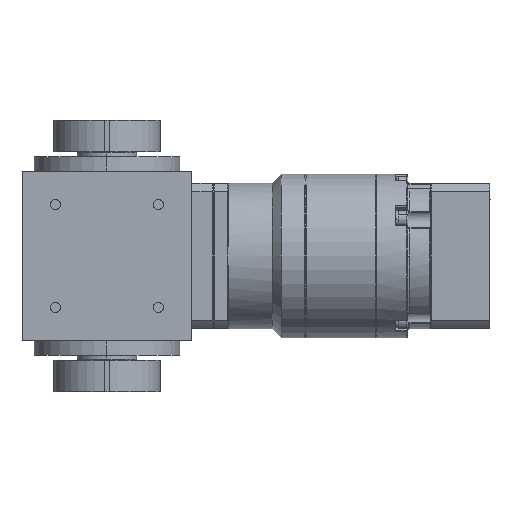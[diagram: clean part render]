
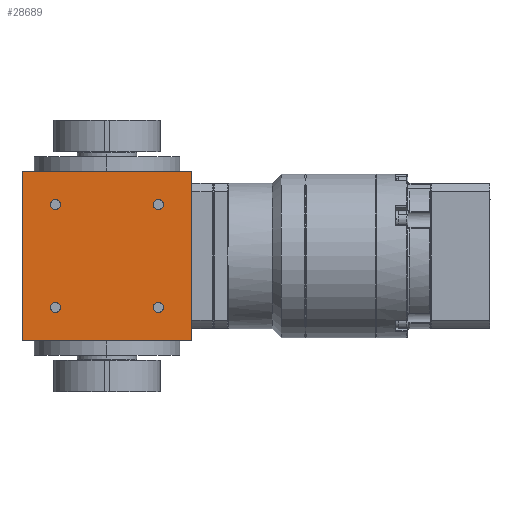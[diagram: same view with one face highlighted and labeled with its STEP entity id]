
A CAD part, left-side view. The second image highlights one B-rep face of the part: STEP entity #28689.
In plain terms, the highlighted planar face has unit normal (-1, 0, 0).
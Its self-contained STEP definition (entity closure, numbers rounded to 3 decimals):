
#25 = VERTEX_POINT ( 'NONE', #18665 ) ;
#440 = ORIENTED_EDGE ( 'NONE', *, *, #25743, .T. ) ;
#504 = DIRECTION ( 'NONE',  ( 0., -1., 0. ) ) ;
#813 = EDGE_CURVE ( 'NONE', #24007, #13736, #9141, .T. ) ;
#1140 = ORIENTED_EDGE ( 'NONE', *, *, #7274, .T. ) ;
#1322 = AXIS2_PLACEMENT_3D ( 'NONE', #18264, #13850, #11220 ) ;
#1357 = EDGE_CURVE ( 'NONE', #24372, #25, #8247, .T. ) ;
#1424 = DIRECTION ( 'NONE',  ( 0., -1., 0. ) ) ;
#1763 = ORIENTED_EDGE ( 'NONE', *, *, #7796, .T. ) ;
#1769 = ORIENTED_EDGE ( 'NONE', *, *, #26004, .F. ) ;
#2302 = DIRECTION ( 'NONE',  ( 1., 0., 0. ) ) ;
#2336 = DIRECTION ( 'NONE',  ( 1., 0., 0. ) ) ;
#3106 = FACE_BOUND ( 'NONE', #15091, .T. ) ;
#3780 = ORIENTED_EDGE ( 'NONE', *, *, #1357, .F. ) ;
#4146 = CARTESIAN_POINT ( 'NONE',  ( -35., -35., -35. ) ) ;
#4387 = CARTESIAN_POINT ( 'NONE',  ( -35., 35., -35. ) ) ;
#4715 = DIRECTION ( 'NONE',  ( 0., 0., 1. ) ) ;
#4763 = FACE_OUTER_BOUND ( 'NONE', #14616, .T. ) ;
#5106 = EDGE_LOOP ( 'NONE', ( #21256, #21361 ) ) ;
#5438 = LINE ( 'NONE', #22935, #24991 ) ;
#5484 = AXIS2_PLACEMENT_3D ( 'NONE', #11740, #16340, #1424 ) ;
#6854 = VERTEX_POINT ( 'NONE', #26621 ) ;
#6880 = DIRECTION ( 'NONE',  ( 0., -1., 0. ) ) ;
#7204 = CARTESIAN_POINT ( 'NONE',  ( -35., 19.113, 21.213 ) ) ;
#7226 = DIRECTION ( 'NONE',  ( 0., -1., 0. ) ) ;
#7274 = EDGE_CURVE ( 'NONE', #24372, #31405, #16451, .T. ) ;
#7706 = FACE_BOUND ( 'NONE', #29913, .T. ) ;
#7727 = AXIS2_PLACEMENT_3D ( 'NONE', #25912, #2336, #21976 ) ;
#7796 = EDGE_CURVE ( 'NONE', #13736, #24007, #13659, .T. ) ;
#7823 = CARTESIAN_POINT ( 'NONE',  ( -35., -23.313, -21.213 ) ) ;
#7921 = CARTESIAN_POINT ( 'NONE',  ( -35., -19.113, -21.213 ) ) ;
#8024 = DIRECTION ( 'NONE',  ( 0., 0., 1. ) ) ;
#8030 = AXIS2_PLACEMENT_3D ( 'NONE', #14898, #2302, #6880 ) ;
#8247 = LINE ( 'NONE', #18232, #31229 ) ;
#8387 = VECTOR ( 'NONE', #13832, 1000. ) ;
#9029 = AXIS2_PLACEMENT_3D ( 'NONE', #22980, #10541, #23144 ) ;
#9141 = CIRCLE ( 'NONE', #1322, 2.1 ) ;
#9940 = ORIENTED_EDGE ( 'NONE', *, *, #813, .T. ) ;
#10063 = CIRCLE ( 'NONE', #9029, 2.1 ) ;
#10157 = FACE_BOUND ( 'NONE', #23593, .T. ) ;
#10541 = DIRECTION ( 'NONE',  ( 1., 0., 0. ) ) ;
#10633 = PLANE ( 'NONE',  #23485 ) ;
#11220 = DIRECTION ( 'NONE',  ( 0., -1., 0. ) ) ;
#11520 = EDGE_CURVE ( 'NONE', #15165, #6854, #10063, .T. ) ;
#11740 = CARTESIAN_POINT ( 'NONE',  ( -35., 21.213, -21.213 ) ) ;
#12078 = EDGE_CURVE ( 'NONE', #6854, #15165, #23716, .T. ) ;
#12132 = DIRECTION ( 'NONE',  ( 1., 0., 0. ) ) ;
#12550 = DIRECTION ( 'NONE',  ( 0., -1., 0. ) ) ;
#12939 = DIRECTION ( 'NONE',  ( -1., 0., 0. ) ) ;
#13096 = CARTESIAN_POINT ( 'NONE',  ( -35., 35., -35. ) ) ;
#13659 = CIRCLE ( 'NONE', #31906, 2.1 ) ;
#13736 = VERTEX_POINT ( 'NONE', #7204 ) ;
#13832 = DIRECTION ( 'NONE',  ( 0., -1., 0. ) ) ;
#13850 = DIRECTION ( 'NONE',  ( 1., 0., 0. ) ) ;
#14571 = CARTESIAN_POINT ( 'NONE',  ( -35., 23.313, 21.213 ) ) ;
#14616 = EDGE_LOOP ( 'NONE', ( #3780, #1140, #24427, #1769 ) ) ;
#14898 = CARTESIAN_POINT ( 'NONE',  ( -35., -21.213, 21.213 ) ) ;
#15091 = EDGE_LOOP ( 'NONE', ( #440, #16186 ) ) ;
#15165 = VERTEX_POINT ( 'NONE', #19125 ) ;
#15321 = EDGE_CURVE ( 'NONE', #31405, #25916, #27302, .T. ) ;
#15453 = VERTEX_POINT ( 'NONE', #7823 ) ;
#15747 = CIRCLE ( 'NONE', #26730, 2.1 ) ;
#16058 = CIRCLE ( 'NONE', #7727, 2.1 ) ;
#16186 = ORIENTED_EDGE ( 'NONE', *, *, #20499, .T. ) ;
#16191 = CARTESIAN_POINT ( 'NONE',  ( -35., -21.213, -21.213 ) ) ;
#16284 = CARTESIAN_POINT ( 'NONE',  ( -35., 0., -35. ) ) ;
#16340 = DIRECTION ( 'NONE',  ( 1., 0., 0. ) ) ;
#16451 = LINE ( 'NONE', #16284, #8387 ) ;
#16828 = CARTESIAN_POINT ( 'NONE',  ( -35., 23.313, -21.213 ) ) ;
#18232 = CARTESIAN_POINT ( 'NONE',  ( -35., 35., -35. ) ) ;
#18264 = CARTESIAN_POINT ( 'NONE',  ( -35., 21.213, 21.213 ) ) ;
#18665 = CARTESIAN_POINT ( 'NONE',  ( -35., 35., 35. ) ) ;
#19125 = CARTESIAN_POINT ( 'NONE',  ( -35., -19.113, 21.213 ) ) ;
#19176 = CARTESIAN_POINT ( 'NONE',  ( -35., 21.213, 21.213 ) ) ;
#19390 = EDGE_CURVE ( 'NONE', #15453, #22085, #22198, .T. ) ;
#20478 = CARTESIAN_POINT ( 'NONE',  ( -35., -35., 35. ) ) ;
#20499 = EDGE_CURVE ( 'NONE', #26554, #22330, #21145, .T. ) ;
#21145 = CIRCLE ( 'NONE', #5484, 2.1 ) ;
#21256 = ORIENTED_EDGE ( 'NONE', *, *, #12078, .T. ) ;
#21361 = ORIENTED_EDGE ( 'NONE', *, *, #11520, .T. ) ;
#21976 = DIRECTION ( 'NONE',  ( 0., -1., 0. ) ) ;
#22085 = VERTEX_POINT ( 'NONE', #7921 ) ;
#22198 = CIRCLE ( 'NONE', #26384, 2.1 ) ;
#22330 = VERTEX_POINT ( 'NONE', #31747 ) ;
#22590 = FACE_BOUND ( 'NONE', #5106, .T. ) ;
#22935 = CARTESIAN_POINT ( 'NONE',  ( -35., 0., 35. ) ) ;
#22980 = CARTESIAN_POINT ( 'NONE',  ( -35., -21.213, 21.213 ) ) ;
#23144 = DIRECTION ( 'NONE',  ( 0., -1., 0. ) ) ;
#23485 = AXIS2_PLACEMENT_3D ( 'NONE', #13096, #12939, #8024 ) ;
#23593 = EDGE_LOOP ( 'NONE', ( #30875, #29411 ) ) ;
#23716 = CIRCLE ( 'NONE', #8030, 2.1 ) ;
#24007 = VERTEX_POINT ( 'NONE', #14571 ) ;
#24372 = VERTEX_POINT ( 'NONE', #4387 ) ;
#24427 = ORIENTED_EDGE ( 'NONE', *, *, #15321, .T. ) ;
#24991 = VECTOR ( 'NONE', #504, 1000. ) ;
#25586 = VECTOR ( 'NONE', #4715, 1000. ) ;
#25743 = EDGE_CURVE ( 'NONE', #22330, #26554, #16058, .T. ) ;
#25912 = CARTESIAN_POINT ( 'NONE',  ( -35., 21.213, -21.213 ) ) ;
#25916 = VERTEX_POINT ( 'NONE', #20478 ) ;
#26004 = EDGE_CURVE ( 'NONE', #25, #25916, #5438, .T. ) ;
#26171 = DIRECTION ( 'NONE',  ( 1., 0., 0. ) ) ;
#26384 = AXIS2_PLACEMENT_3D ( 'NONE', #27447, #29708, #12550 ) ;
#26554 = VERTEX_POINT ( 'NONE', #16828 ) ;
#26621 = CARTESIAN_POINT ( 'NONE',  ( -35., -23.313, 21.213 ) ) ;
#26730 = AXIS2_PLACEMENT_3D ( 'NONE', #16191, #26171, #31207 ) ;
#27302 = LINE ( 'NONE', #32170, #25586 ) ;
#27447 = CARTESIAN_POINT ( 'NONE',  ( -35., -21.213, -21.213 ) ) ;
#28528 = DIRECTION ( 'NONE',  ( 0., 0., 1. ) ) ;
#28689 = ADVANCED_FACE ( 'NONE', ( #4763, #3106, #10157, #22590, #7706 ), #10633, .T. ) ;
#29411 = ORIENTED_EDGE ( 'NONE', *, *, #31053, .T. ) ;
#29708 = DIRECTION ( 'NONE',  ( 1., 0., 0. ) ) ;
#29913 = EDGE_LOOP ( 'NONE', ( #1763, #9940 ) ) ;
#30875 = ORIENTED_EDGE ( 'NONE', *, *, #19390, .T. ) ;
#31053 = EDGE_CURVE ( 'NONE', #22085, #15453, #15747, .T. ) ;
#31207 = DIRECTION ( 'NONE',  ( 0., -1., 0. ) ) ;
#31229 = VECTOR ( 'NONE', #28528, 1000. ) ;
#31405 = VERTEX_POINT ( 'NONE', #4146 ) ;
#31747 = CARTESIAN_POINT ( 'NONE',  ( -35., 19.113, -21.213 ) ) ;
#31906 = AXIS2_PLACEMENT_3D ( 'NONE', #19176, #12132, #7226 ) ;
#32170 = CARTESIAN_POINT ( 'NONE',  ( -35., -35., -35. ) ) ;
